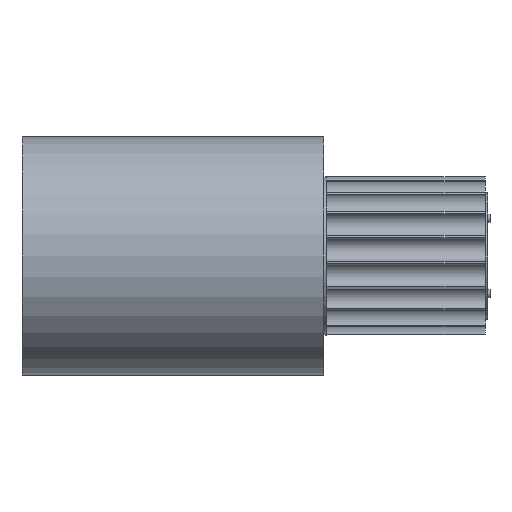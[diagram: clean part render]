
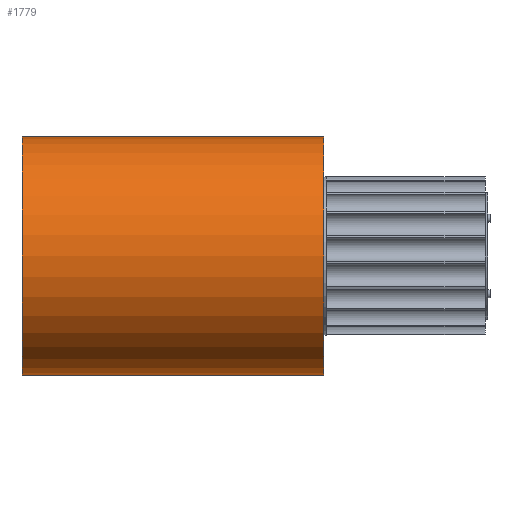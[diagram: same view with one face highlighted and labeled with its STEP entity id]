
A CAD part, left-side view. The second image highlights one B-rep face of the part: STEP entity #1779.
In plain terms, the highlighted cylindrical face has radius 150 mm (diameter 300 mm), a partial arc.
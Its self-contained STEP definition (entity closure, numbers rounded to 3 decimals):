
#93 = DIRECTION ( 'NONE',  ( 0., 1., 0. ) ) ;
#98 = VERTEX_POINT ( 'NONE', #1626 ) ;
#132 = DIRECTION ( 'NONE',  ( 0., -1., 0. ) ) ;
#149 = EDGE_CURVE ( 'NONE', #1437, #1908, #1683, .T. ) ;
#167 = CARTESIAN_POINT ( 'NONE',  ( 0., 583.01, 150. ) ) ;
#199 = AXIS2_PLACEMENT_3D ( 'NONE', #1365, #93, #2667 ) ;
#263 = VERTEX_POINT ( 'NONE', #1487 ) ;
#482 = CARTESIAN_POINT ( 'NONE',  ( 0., 203.01, 150. ) ) ;
#602 = ORIENTED_EDGE ( 'NONE', *, *, #2786, .F. ) ;
#740 = FACE_OUTER_BOUND ( 'NONE', #2041, .T. ) ;
#849 = DIRECTION ( 'NONE',  ( 0., -1., 0. ) ) ;
#1057 = EDGE_CURVE ( 'NONE', #263, #98, #1208, .T. ) ;
#1117 = LINE ( 'NONE', #2129, #2417 ) ;
#1208 = CIRCLE ( 'NONE', #199, 150. ) ;
#1244 = CYLINDRICAL_SURFACE ( 'NONE', #2252, 150. ) ;
#1262 = ORIENTED_EDGE ( 'NONE', *, *, #149, .T. ) ;
#1322 = AXIS2_PLACEMENT_3D ( 'NONE', #2377, #2366, #2122 ) ;
#1365 = CARTESIAN_POINT ( 'NONE',  ( 0., 583.01, 0. ) ) ;
#1367 = VECTOR ( 'NONE', #132, 1000. ) ;
#1437 = VERTEX_POINT ( 'NONE', #2567 ) ;
#1487 = CARTESIAN_POINT ( 'NONE',  ( 0., 583.01, -150. ) ) ;
#1626 = CARTESIAN_POINT ( 'NONE',  ( 0., 583.01, 150. ) ) ;
#1683 = CIRCLE ( 'NONE', #1322, 150. ) ;
#1685 = EDGE_CURVE ( 'NONE', #263, #1437, #1117, .T. ) ;
#1779 = ADVANCED_FACE ( 'NONE', ( #740 ), #1244, .T. ) ;
#1903 = DIRECTION ( 'NONE',  ( 0., -1., 0. ) ) ;
#1908 = VERTEX_POINT ( 'NONE', #482 ) ;
#2009 = ORIENTED_EDGE ( 'NONE', *, *, #1685, .T. ) ;
#2041 = EDGE_LOOP ( 'NONE', ( #602, #2724, #2009, #1262 ) ) ;
#2122 = DIRECTION ( 'NONE',  ( 0., 0., 1. ) ) ;
#2129 = CARTESIAN_POINT ( 'NONE',  ( 0., 583.01, -150. ) ) ;
#2252 = AXIS2_PLACEMENT_3D ( 'NONE', #2327, #1903, #2360 ) ;
#2327 = CARTESIAN_POINT ( 'NONE',  ( 0., 583.01, 0. ) ) ;
#2360 = DIRECTION ( 'NONE',  ( 0., 0., -1. ) ) ;
#2366 = DIRECTION ( 'NONE',  ( 0., 1., 0. ) ) ;
#2377 = CARTESIAN_POINT ( 'NONE',  ( 0., 203.01, 0. ) ) ;
#2417 = VECTOR ( 'NONE', #849, 1000. ) ;
#2567 = CARTESIAN_POINT ( 'NONE',  ( 0., 203.01, -150. ) ) ;
#2667 = DIRECTION ( 'NONE',  ( 0., 0., 1. ) ) ;
#2724 = ORIENTED_EDGE ( 'NONE', *, *, #1057, .F. ) ;
#2741 = LINE ( 'NONE', #167, #1367 ) ;
#2786 = EDGE_CURVE ( 'NONE', #98, #1908, #2741, .T. ) ;
